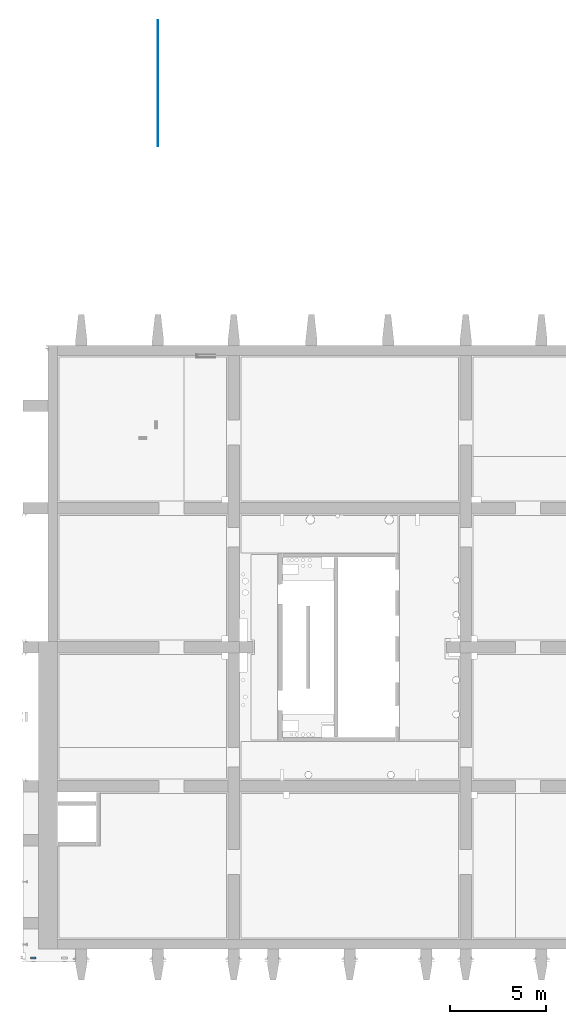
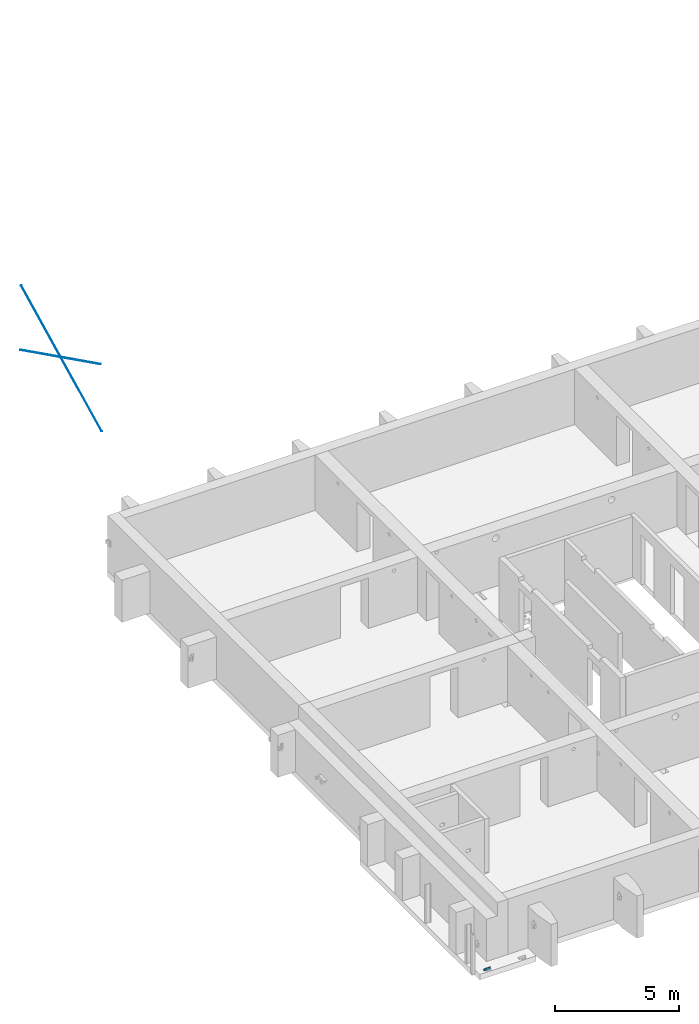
# One storey, part 14 of 22: 3 beams.
"""IFC2X3 building model written with IfcOpenShell, lengths in millimetres."""

import ifcopenshell
import ifcopenshell.guid

model = None  # the IFC model being written
_history = None  # IfcOwnerHistory: only IFC2X3 demands one
_inside = {}  # id of a spatial element -> (the spatial element, [elements in it])
_under = {}  # id of a project, library or spatial element -> (it, [spatial elements below it])
_declared = {}  # id of a project -> (the project, [libraries it declares])
_typed = {}  # id of a type object -> (the type object, [elements of that type])
_made_of = {}  # id of a material, layer set ... -> (it, [elements and type objects made of it])


def new_model(schema):
    """Start an empty IFC model of exactly this schema.

    Asked for "IFC4X3", IfcOpenShell would pick the latest addendum, in which some entities
    have other attributes; the version numbers below select the first issue.
    IFC2X3 requires an IfcOwnerHistory on every rooted entity: one is made here for all.
    """
    global model, _history
    if schema == "IFC4X3":
        model = ifcopenshell.file(schema_version=(4, 3, 0, 0))
    else:
        model = ifcopenshell.file(schema=schema)
    _inside.clear()
    _under.clear()
    _declared.clear()
    _typed.clear()
    _made_of.clear()
    _history = None
    if model.schema == "IFC2X3":
        org = make("IfcOrganization", Name="unknown")
        user = make(
            "IfcPersonAndOrganization",
            ThePerson=make("IfcPerson", FamilyName="unknown"),
            TheOrganization=org,
        )
        app = make(
            "IfcApplication",
            ApplicationDeveloper=org,
            Version="unknown",
            ApplicationFullName="unknown",
            ApplicationIdentifier="unknown",
        )
        _history = make(
            "IfcOwnerHistory",
            OwningUser=user,
            OwningApplication=app,
            ChangeAction="ADDED",
            CreationDate=0,
        )
    return model


def make(cls, **values):
    """One entity of the class cls with the attributes given. An attribute that is None is left unset."""
    return model.create_entity(
        cls, **{name: value for name, value in values.items() if value is not None}
    )


def entity(cls, *values):
    """Any entity or typed value of the class cls, its attributes in the order of the schema. None: left unset."""
    e = model.create_entity(cls)
    for i, value in enumerate(values):
        if value is not None:
            e[i] = value
    return e


def rooted(cls, **values):
    """An entity with a GlobalId (a new one), such as an element, a storey or a relation."""
    return make(cls, GlobalId=ifcopenshell.guid.new(), OwnerHistory=_history, **values)


def si_unit(unit_type, name, prefix=None):
    """IfcSIUnit, for example si_unit("LENGTHUNIT", "METRE", prefix="MILLI")."""
    return make("IfcSIUnit", UnitType=unit_type, Prefix=prefix, Name=name)


def converted_unit(unit_type, name, factor, base, dimensions=None, offset=None):
    """IfcConversionBasedUnit, such as the inch: factor (a typed value) times the base unit."""
    return make(
        "IfcConversionBasedUnit"
        if offset is None
        else "IfcConversionBasedUnitWithOffset",
        ConversionOffset=offset,
        Dimensions=None
        if dimensions is None
        else entity("IfcDimensionalExponents", *dimensions),
        UnitType=unit_type,
        Name=name,
        ConversionFactor=make(
            "IfcMeasureWithUnit", ValueComponent=factor, UnitComponent=base
        ),
    )


def derived_unit(unit_type, elements):
    """IfcDerivedUnit: a product of units, each with its exponent."""
    return make(
        "IfcDerivedUnit",
        Elements=[
            make("IfcDerivedUnitElement", Unit=unit, Exponent=power)
            for unit, power in elements
        ],
        UnitType=unit_type,
    )


def assignment(units):
    """IfcUnitAssignment: the units of a project."""
    return None if units is None else make("IfcUnitAssignment", Units=units)


def point(xyz):
    """IfcCartesianPoint."""
    return None if xyz is None else make("IfcCartesianPoint", Coordinates=xyz)


def direction(xyz):
    """IfcDirection."""
    return None if xyz is None else make("IfcDirection", DirectionRatios=xyz)


def frame(location, z_axis=None, x_axis=None):
    """IfcAxis2Placement3D, a coordinate frame: its origin and axes. An axis left out is left unset."""
    return make(
        "IfcAxis2Placement3D",
        Location=point(location),
        Axis=direction(z_axis),
        RefDirection=direction(x_axis),
    )


def frame_2d(location, x_axis=None):
    """IfcAxis2Placement2D, a coordinate frame in the plane: its origin and x axis."""
    return make(
        "IfcAxis2Placement2D", Location=point(location), RefDirection=direction(x_axis)
    )


def origin():
    """The frame at (0, 0, 0) with its axes left unset."""
    return frame((0.0, 0.0, 0.0))


def origin_2d_with_axis():
    """The frame at (0, 0) in the plane with the x axis (1, 0) written out."""
    return frame_2d((0.0, 0.0), x_axis=(1.0, 0.0))


def place(relative_to, where):
    """IfcLocalPlacement: puts the frame where relative to a parent placement (None: the world)."""
    return make(
        "IfcLocalPlacement", PlacementRelTo=relative_to, RelativePlacement=where
    )


def context(
    kind, dimensions, precision=None, world=None, true_north=None, identifier=None
):
    """IfcGeometricRepresentationContext, for example the 3D "Model" context."""
    return make(
        "IfcGeometricRepresentationContext",
        ContextIdentifier=identifier,
        ContextType=kind,
        CoordinateSpaceDimension=dimensions,
        Precision=precision,
        WorldCoordinateSystem=world,
        TrueNorth=true_north,
    )


def subcontext(parent, identifier, kind, view, scale=None):
    """IfcGeometricRepresentationSubContext, for example "Body" below "Model"."""
    return make(
        "IfcGeometricRepresentationSubContext",
        ContextIdentifier=identifier,
        ContextType=kind,
        ParentContext=parent,
        TargetScale=scale,
        TargetView=view,
    )


def project(units=None, contexts=None):
    """IfcProject with its units and contexts."""
    return rooted(
        "IfcProject",
        Name="project",
        RepresentationContexts=contexts,
        UnitsInContext=assignment(units),
    )


def spatial(cls, under=None, at=None, **own):
    """A site, building, storey or space (cls), placed at a placement, below another one or the project."""
    s = rooted(cls, ObjectPlacement=at, **own)
    if under is not None:
        _under.setdefault(under.id(), (under, []))[1].append(s)
    return s


def polyline(points):
    """IfcPolyline through the points."""
    return make("IfcPolyline", Points=[point(p) for p in points])


def circle_curve(where, radius):
    """IfcCircle in the frame where."""
    return make("IfcCircle", Position=where, Radius=radius)


def parameter(value):
    """IfcParameterValue: where a trimmed curve begins or ends, as a parameter of its basis curve."""
    return model.create_entity("IfcParameterValue", value)


def trimmed(basis, trim1, trim2, sense, master):
    """IfcTrimmedCurve: the piece of a basis curve between two trims."""
    return make(
        "IfcTrimmedCurve",
        BasisCurve=basis,
        Trim1=trim1,
        Trim2=trim2,
        SenseAgreement=sense,
        MasterRepresentation=master,
    )


def segment(curve, same_sense, transition):
    """IfcCompositeCurveSegment."""
    return make(
        "IfcCompositeCurveSegment",
        Transition=transition,
        SameSense=same_sense,
        ParentCurve=curve,
    )


def composite_curve(segments, self_intersect=None):
    """IfcCompositeCurve: segments joined end to end."""
    return make("IfcCompositeCurve", Segments=segments, SelfIntersect=self_intersect)


def profile(cls, at=None, kind="AREA", **sizes):
    """A parametric profile (cls). Its sizes go by their IFC names, for example OverallWidth=200.0."""
    return make(cls, ProfileType=kind, Position=at, **sizes)


def circle(**sizes):
    """IfcCircleProfileDef."""
    return profile("IfcCircleProfileDef", **sizes)


def outline(outer, holes=None, kind="AREA"):
    """IfcArbitraryClosedProfileDef: a profile drawn as a closed curve; with holes, ...WithVoids."""
    if holes is None:
        return make("IfcArbitraryClosedProfileDef", ProfileType=kind, OuterCurve=outer)
    return make(
        "IfcArbitraryProfileDefWithVoids",
        ProfileType=kind,
        OuterCurve=outer,
        InnerCurves=holes,
    )


def extrude(swept, where, along, depth):
    """IfcExtrudedAreaSolid: the profile swept, set in the frame where, extruded along a direction by depth."""
    return make(
        "IfcExtrudedAreaSolid",
        SweptArea=swept,
        Position=where,
        ExtrudedDirection=direction(along),
        Depth=depth,
    )


def shape(context_of_items, identifier, shape_type, items):
    """IfcShapeRepresentation: the items that make up one representation, for example the "Body"."""
    return make(
        "IfcShapeRepresentation",
        ContextOfItems=context_of_items,
        RepresentationIdentifier=identifier,
        RepresentationType=shape_type,
        Items=items,
    )


def material(Name=None, Category=None):
    """IfcMaterial."""
    return make("IfcMaterial", Name=Name, Category=Category)


def made_of(thing, what):
    """Note that an element or type object is made of a material, layer set ...; save() writes the relation."""
    if what is not None:
        _made_of.setdefault(what.id(), (what, []))[1].append(thing)
    return thing


def type_object(cls, material=None, **own):
    """A type object (cls), such as IfcWallType, which elements share."""
    return made_of(rooted(cls, **own), material)


def element(
    cls,
    number,
    at=None,
    inside=None,
    cuts=None,
    type_object=None,
    material=None,
    context=None,
    identifier="Body",
    shape_type=None,
    held_by="IfcProductDefinitionShape",
    body=None,
    shapes=None,
    **own,
):
    """One element of the class cls, such as IfcWall. Its Tag is "e" and its number.

    at: its placement. inside: the storey or other place that contains it. cuts: it is an
    opening in that element (IfcRelVoidsElement). A single representation is given by context,
    identifier, shape_type and body (its items); several are given by shapes. held_by: the class
    of the entity that holds the representations. save() writes the other relations.
    """
    e = rooted(cls, Tag="e%d" % number, ObjectPlacement=at, **own)
    if body is not None:
        shapes = [shape(context, identifier, shape_type, body)]
    if shapes is not None:
        e.Representation = make(held_by, Representations=shapes)
    if inside is not None:
        _inside.setdefault(inside.id(), (inside, []))[1].append(e)
    if cuts is not None:
        rooted(
            "IfcRelVoidsElement", RelatingBuildingElement=cuts, RelatedOpeningElement=e
        )
    if type_object is not None:
        _typed.setdefault(type_object.id(), (type_object, []))[1].append(e)
    return made_of(e, material)


def aggregate(whole, parts):
    """IfcRelAggregates: a whole, such as a stair, and the parts it consists of."""
    return rooted("IfcRelAggregates", RelatingObject=whole, RelatedObjects=parts)


def save(model, path):
    """Write the relations noted so far, then the file.

    IfcRelAggregates (storeys below a building ...), IfcRelContainedInSpatialStructure (elements
    in a storey), IfcRelDefinesByType, IfcRelAssociatesMaterial and IfcRelDeclares: one each for
    every whole, place, type object, material and project.
    """
    for whole, parts in _under.values():
        aggregate(whole, parts)
    for where, things in _inside.values():
        rooted(
            "IfcRelContainedInSpatialStructure",
            RelatedElements=things,
            RelatingStructure=where,
        )
    for kind, things in _typed.values():
        rooted("IfcRelDefinesByType", RelatedObjects=things, RelatingType=kind)
    for what, things in _made_of.values():
        rooted("IfcRelAssociatesMaterial", RelatedObjects=things, RelatingMaterial=what)
    for by, libraries in _declared.values():
        rooted("IfcRelDeclares", RelatingContext=by, RelatedDefinitions=libraries)
    model.write(path)


model = new_model("IFC2X3")

# Units and contexts
model_context = context("Model", 3, precision=0.01, world=origin(), true_north=direction((6.12303176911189e-17, 1.0)))
body_context = subcontext(model_context, "Body", "Model", "MODEL_VIEW")
ifc_project = project(units=[si_unit("LENGTHUNIT", "METRE", prefix="MILLI"), si_unit("AREAUNIT", "SQUARE_METRE"), si_unit("VOLUMEUNIT", "CUBIC_METRE"), converted_unit("PLANEANGLEUNIT", "DEGREE", entity("IfcRatioMeasure", 0.0174532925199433), si_unit("PLANEANGLEUNIT", "RADIAN"), dimensions=[0, 0, 0, 0, 0, 0, 0]), si_unit("MASSUNIT", "GRAM", prefix="KILO"), derived_unit("MASSDENSITYUNIT", [(si_unit("MASSUNIT", "GRAM", prefix="KILO"), 1), (si_unit("LENGTHUNIT", "METRE"), -3)]), si_unit("TIMEUNIT", "SECOND"), si_unit("FREQUENCYUNIT", "HERTZ"), si_unit("THERMODYNAMICTEMPERATUREUNIT", "DEGREE_CELSIUS"), derived_unit("THERMALTRANSMITTANCEUNIT", [(si_unit("MASSUNIT", "GRAM", prefix="KILO"), 1), (si_unit("THERMODYNAMICTEMPERATUREUNIT", "KELVIN"), -1), (si_unit("TIMEUNIT", "SECOND"), -3)]), derived_unit("VOLUMETRICFLOWRATEUNIT", [(si_unit("LENGTHUNIT", "METRE"), 3), (si_unit("TIMEUNIT", "SECOND"), -1)]), si_unit("ELECTRICCURRENTUNIT", "AMPERE"), si_unit("ELECTRICVOLTAGEUNIT", "VOLT"), si_unit("POWERUNIT", "WATT"), si_unit("FORCEUNIT", "NEWTON", prefix="KILO"), si_unit("ILLUMINANCEUNIT", "LUX"), si_unit("LUMINOUSFLUXUNIT", "LUMEN"), si_unit("LUMINOUSINTENSITYUNIT", "CANDELA"), derived_unit("USERDEFINED", [(si_unit("MASSUNIT", "GRAM", prefix="KILO"), -1), (si_unit("LENGTHUNIT", "METRE"), -2), (si_unit("TIMEUNIT", "SECOND"), 3), (si_unit("LUMINOUSFLUXUNIT", "LUMEN"), 1)]), derived_unit("LINEARVELOCITYUNIT", [(si_unit("LENGTHUNIT", "METRE"), 1), (si_unit("TIMEUNIT", "SECOND"), -1)]), si_unit("PRESSUREUNIT", "PASCAL"), derived_unit("USERDEFINED", [(si_unit("LENGTHUNIT", "METRE"), -2), (si_unit("MASSUNIT", "GRAM", prefix="KILO"), 1), (si_unit("TIMEUNIT", "SECOND"), -2)])], contexts=[model_context])

# Site, building, storey
site_placement = place(None, origin())
site = spatial("IfcSite", under=ifc_project, at=site_placement, Name="Default", CompositionType="ELEMENT")
building_placement = place(site_placement, origin())
building = spatial("IfcBuilding", under=site, at=building_placement, Name="niet gebruiken", CompositionType="ELEMENT")
storey_placement = place(building_placement, frame((0.0, 0.0, 15000.0)))
storey = spatial("IfcBuildingStorey", under=building, at=storey_placement, Name="04 vierde verdieping", CompositionType="ELEMENT", Elevation=15000.0)

# Beams
ifc_material = material(Name="NLRS_h2_staal")
beam_type_1 = type_object("IfcBeamType", Name="NLRS_28.11_SF_WPB_stalen ligger rond massief_gen:Willemsanker ø24", PredefinedType="BEAM")
beam_1_placement = place(storey_placement, frame((131750.0, 50290.85, -1540.0), z_axis=(0.0, 0.445536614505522, 0.8952637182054), x_axis=(0.0, -0.8952637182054, 0.445536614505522)))
element("IfcBeam", 1, at=beam_1_placement, inside=storey, type_object=beam_type_1, material=ifc_material, Name="NLRS_28.11_SF_WPB_stalen ligger rond massief_gen:Willemsanker ø24", ObjectType="NLRS_28.11_SF_WPB_stalen ligger rond massief_gen:Willemsanker ø24", context=body_context, shape_type="SweptSolid", body=[
    extrude(circle(Radius=11.9999999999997, at=origin_2d_with_axis()), frame((91.2131464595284, 0.0, 0.0), z_axis=(1.0, 0.0, 0.0), x_axis=(0.0, 1.0, 0.0)), (0.0, 0.0, 1.0), 7220.69582625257),
])
beam_2_placement = place(storey_placement, frame((131750.0, 50175.0, 1740.0), z_axis=(0.0, -0.445536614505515, 0.895263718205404), x_axis=(0.0, -0.895263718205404, -0.445536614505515)))
element("IfcBeam", 2, at=beam_2_placement, inside=storey, type_object=beam_type_1, material=ifc_material, Name="NLRS_28.11_SF_WPB_stalen ligger rond massief_gen:Willemsanker ø24", ObjectType="NLRS_28.11_SF_WPB_stalen ligger rond massief_gen:Willemsanker ø24", context=body_context, shape_type="SweptSolid", body=[
    extrude(circle(Radius=11.9999999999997, at=origin_2d_with_axis()), frame((50.0, 0.0, 0.0), z_axis=(1.0, 0.0, 0.0), x_axis=(0.0, 1.0, 0.0)), (0.0, 0.0, 1.0), 7261.90897271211),
])
beam_type_2 = type_object("IfcBeamType", Name="NLRS_28.11_SF_WPB_stalen ligger hoekprofiel gelijkzijdig_gen:ligger gelijzijdig hoekprofiel LEQU_120x120x12_!", PredefinedType="BEAM")
beam_3_placement = place(storey_placement, frame((125100.0, 1254.0, 30.0)))
element("IfcBeam", 3, at=beam_3_placement, inside=storey, type_object=beam_type_2, material=ifc_material, Name="NLRS_28.11_SF_WPB_stalen ligger hoekprofiel gelijkzijdig_gen:ligger gelijzijdig hoekprofiel LEQU_120x120x12_!", ObjectType="NLRS_28.11_SF_WPB_stalen ligger hoekprofiel gelijkzijdig_gen:ligger gelijzijdig hoekprofiel LEQU_120x120x12_!", context=body_context, shape_type="SweptSolid", body=[
    extrude(outline(composite_curve([segment(polyline([(-75.5555555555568, -44.444444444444), (44.444444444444, -44.444444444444)]), True, "CONTINUOUS"), segment(polyline([(44.444444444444, -44.4444444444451), (44.4444444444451, 75.5555555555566)]), True, "CONTINUOUS"), segment(polyline([(44.4444444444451, 75.5555555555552), (40.4444444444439, 75.5555555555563)]), True, "CONTINUOUS"), segment(trimmed(circle_curve(frame_2d((40.444444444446, 69.5555555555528), x_axis=(0.0, 1.0)), 6.00000000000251), [parameter(0.0)], [parameter(89.9999999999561)], True, "PARAMETER"), True, "CONTINUOUS"), segment(polyline([(34.444444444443, 69.5555555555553), (34.4444444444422, -22.4444444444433)]), True, "CONTINUOUS"), segment(trimmed(circle_curve(frame_2d((22.4444444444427, -22.4444444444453), x_axis=(1.0, 0.0)), 11.9999999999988), [parameter(269.999999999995)], [parameter(0.0)], True, "PARAMETER"), False, "CONTINUOUS"), segment(polyline([(22.4444444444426, -34.4444444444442), (-69.5555555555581, -34.4444444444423)]), True, "CONTINUOUS"), segment(trimmed(circle_curve(frame_2d((-69.5555555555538, -40.4444444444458), x_axis=(0.0, 1.0)), 6.00000000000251), [parameter(0.0)], [parameter(89.9999999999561)], True, "PARAMETER"), True, "CONTINUOUS"), segment(polyline([(-75.5555555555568, -40.4444444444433), (-75.5555555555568, -44.444444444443)]), True, "CONTINUOUS")], self_intersect=False)), frame((0.0, 24.4444444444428, -75.5555555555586), z_axis=(1.0, 0.0, 0.0), x_axis=(0.0, 0.0, -1.0)), (0.0, 0.0, 1.0), 300.000000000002),
])

save(model, "model.ifc")
